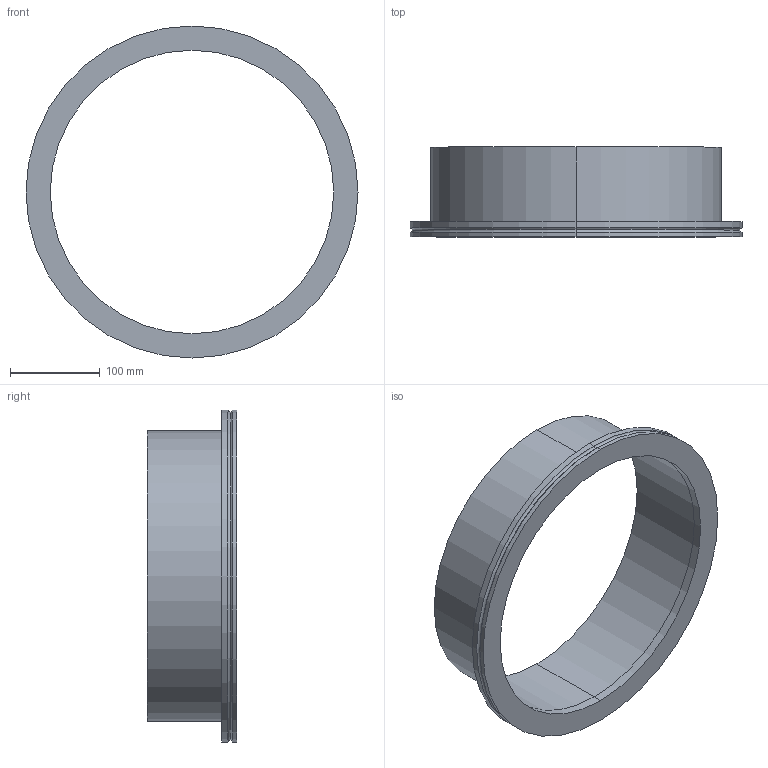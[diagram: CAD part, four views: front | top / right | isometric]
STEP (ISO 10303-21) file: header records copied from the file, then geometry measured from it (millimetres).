
FILE_DESCRIPTION (( 'STEP AP214' ), '1' );
FILE_NAME ('W4KR320.STEP', '2019-04-06T08:09:39', ( '' ), ( '' ), 'SwSTEP 2.0', 'SolidWorks 2018', '' );
FILE_SCHEMA (( 'AUTOMOTIVE_DESIGN' ));
Length unit declared in the file: millimetre
Products named in the file (1): W4KR320
Bounding box: 370 x 100 x 370 mm (x, y, z)
Volume: 772135.4 mm3; surface area: 287538.3 mm2
Topology: 2 solids, 2 shells, 24 faces, 48 edges, 30 vertices
Faces by surface type: cylinder 14, plane 6, torus 4
Entity records: 689 total; most frequent: DIRECTION 132, CARTESIAN_POINT 103, ORIENTED_EDGE 96, AXIS2_PLACEMENT_3D 59, EDGE_CURVE 48, CIRCLE 34, EDGE_LOOP 30, VERTEX_POINT 30
